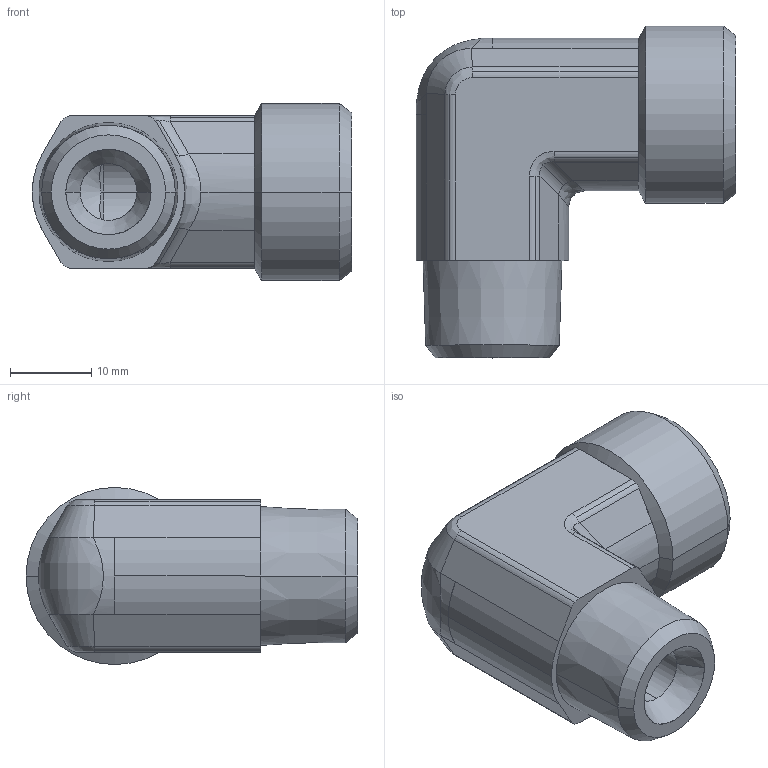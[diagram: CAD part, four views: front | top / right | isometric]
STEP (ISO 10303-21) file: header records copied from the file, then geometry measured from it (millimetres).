
FILE_DESCRIPTION((''),'2;1');
FILE_NAME('102036.stp','2007-10-30T16:34:57',(''),(''),'AutoCAD STEP 2000i','AutoCAD 2000i',', , ');
FILE_SCHEMA(('CONFIG_CONTROL_DESIGN'));
Length unit declared in the file: millimetre
Products named in the file (2): 102036.0; 3090#0
Assembly tree (1 placements, depth 2):
  102036.0
    3090#0
Bounding box: 39.4 x 40.92 x 21.85 mm (x, y, z)
Volume: 13200.2 mm3; surface area: 5799.3 mm2
Topology: 1 solids, 1 shells, 87 faces, 210 edges, 127 vertices
Faces by surface type: cylinder 36, plane 22, cone 15, bspline 14
Entity records: 3436 total; most frequent: CARTESIAN_POINT 1296, DIRECTION 447, ORIENTED_EDGE 420, EDGE_CURVE 210, AXIS2_PLACEMENT_3D 182, VERTEX_POINT 127, CIRCLE 97, EDGE_LOOP 91
